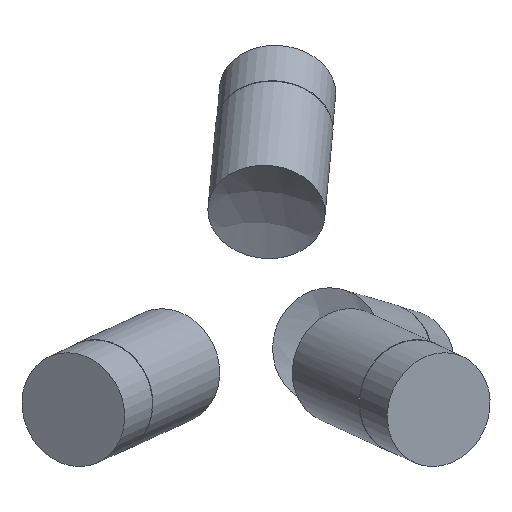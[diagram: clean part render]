
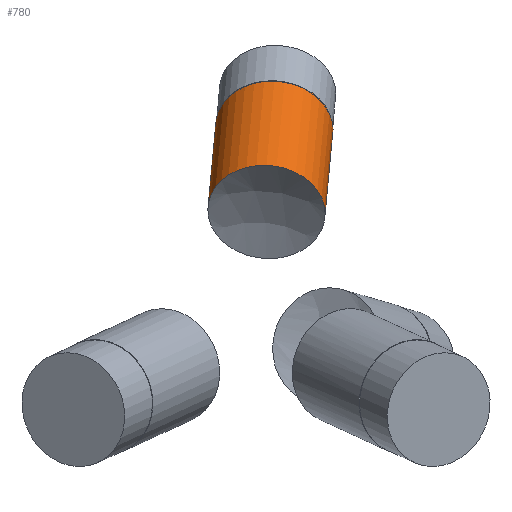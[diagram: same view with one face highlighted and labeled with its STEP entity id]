
A CAD part, top view. The second image highlights one B-rep face of the part: STEP entity #780.
In plain terms, the highlighted cylindrical face has radius 6 mm (diameter 12 mm), a full revolution.
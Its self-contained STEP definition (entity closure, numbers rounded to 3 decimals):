
#33 = SPHERICAL_SURFACE('',#34,20.);
#34 = AXIS2_PLACEMENT_3D('',#35,#36,#37);
#35 = CARTESIAN_POINT('',(0.,0.,0.));
#36 = DIRECTION('',(0.,0.,1.));
#37 = DIRECTION('',(1.,0.,-0.));
#441 = EDGE_CURVE('',#442,#442,#444,.T.);
#442 = VERTEX_POINT('',#443);
#443 = CARTESIAN_POINT('',(1.073,6.865,-18.754)
  );
#444 = SURFACE_CURVE('',#445,(#450,#533),.PCURVE_S1.);
#445 = CIRCLE('',#446,6.);
#446 = AXIS2_PLACEMENT_3D('',#447,#448,#449);
#447 = CARTESIAN_POINT('',(1.073,11.619,
    -15.094));
#448 = DIRECTION('',(0.056,0.609,-0.791)
  );
#449 = DIRECTION('',(0.,0.792,0.61));
#450 = PCURVE('',#33,#451);
#451 = DEFINITIONAL_REPRESENTATION('',(#452),#532);
#452 = B_SPLINE_CURVE_WITH_KNOTS('',8,(#453,#454,#455,#456,#457,#458,
    #459,#460,#461,#462,#463,#464,#465,#466,#467,#468,#469,#470,#471,
    #472,#473,#474,#475,#476,#477,#478,#479,#480,#481,#482,#483,#484,
    #485,#486,#487,#488,#489,#490,#491,#492,#493,#494,#495,#496,#497,
    #498,#499,#500,#501,#502,#503,#504,#505,#506,#507,#508,#509,#510,
    #511,#512,#513,#514,#515,#516,#517,#518,#519,#520,#521,#522,#523,
    #524,#525,#526,#527,#528,#529,#530,#531),.UNSPECIFIED.,.F.,.F.,(9,7,
    7,7,7,7,7,7,7,7,7,9),(3.142,3.534,3.902,
    4.593,5.197,6.254,7.047,
    7.641,8.087,8.756,9.09,
    9.425),.UNSPECIFIED.);
#453 = CARTESIAN_POINT('',(1.416,-1.216));
#454 = CARTESIAN_POINT('',(1.458,-1.218));
#455 = CARTESIAN_POINT('',(1.501,-1.218));
#456 = CARTESIAN_POINT('',(1.544,-1.217));
#457 = CARTESIAN_POINT('',(1.586,-1.215));
#458 = CARTESIAN_POINT('',(1.627,-1.211));
#459 = CARTESIAN_POINT('',(1.666,-1.206));
#460 = CARTESIAN_POINT('',(1.702,-1.199));
#461 = CARTESIAN_POINT('',(1.768,-1.184));
#462 = CARTESIAN_POINT('',(1.798,-1.176));
#463 = CARTESIAN_POINT('',(1.825,-1.167));
#464 = CARTESIAN_POINT('',(1.849,-1.157));
#465 = CARTESIAN_POINT('',(1.871,-1.147));
#466 = CARTESIAN_POINT('',(1.891,-1.136));
#467 = CARTESIAN_POINT('',(1.908,-1.124));
#468 = CARTESIAN_POINT('',(1.951,-1.089));
#469 = CARTESIAN_POINT('',(1.972,-1.065));
#470 = CARTESIAN_POINT('',(1.985,-1.04));
#471 = CARTESIAN_POINT('',(1.993,-1.014));
#472 = CARTESIAN_POINT('',(1.995,-0.988));
#473 = CARTESIAN_POINT('',(1.994,-0.962));
#474 = CARTESIAN_POINT('',(1.988,-0.936));
#475 = CARTESIAN_POINT('',(1.972,-0.888));
#476 = CARTESIAN_POINT('',(1.962,-0.867));
#477 = CARTESIAN_POINT('',(1.95,-0.845));
#478 = CARTESIAN_POINT('',(1.936,-0.824));
#479 = CARTESIAN_POINT('',(1.92,-0.804));
#480 = CARTESIAN_POINT('',(1.902,-0.785));
#481 = CARTESIAN_POINT('',(1.884,-0.767));
#482 = CARTESIAN_POINT('',(1.829,-0.719));
#483 = CARTESIAN_POINT('',(1.79,-0.692));
#484 = CARTESIAN_POINT('',(1.749,-0.668));
#485 = CARTESIAN_POINT('',(1.705,-0.648));
#486 = CARTESIAN_POINT('',(1.659,-0.632));
#487 = CARTESIAN_POINT('',(1.612,-0.62));
#488 = CARTESIAN_POINT('',(1.564,-0.612));
#489 = CARTESIAN_POINT('',(1.48,-0.607));
#490 = CARTESIAN_POINT('',(1.444,-0.607));
#491 = CARTESIAN_POINT('',(1.407,-0.61));
#492 = CARTESIAN_POINT('',(1.371,-0.615));
#493 = CARTESIAN_POINT('',(1.336,-0.623));
#494 = CARTESIAN_POINT('',(1.301,-0.633));
#495 = CARTESIAN_POINT('',(1.267,-0.646));
#496 = CARTESIAN_POINT('',(1.21,-0.671));
#497 = CARTESIAN_POINT('',(1.186,-0.683));
#498 = CARTESIAN_POINT('',(1.163,-0.697));
#499 = CARTESIAN_POINT('',(1.14,-0.711));
#500 = CARTESIAN_POINT('',(1.119,-0.727));
#501 = CARTESIAN_POINT('',(1.099,-0.744));
#502 = CARTESIAN_POINT('',(1.08,-0.761));
#503 = CARTESIAN_POINT('',(1.049,-0.793));
#504 = CARTESIAN_POINT('',(1.036,-0.808));
#505 = CARTESIAN_POINT('',(1.025,-0.822));
#506 = CARTESIAN_POINT('',(1.014,-0.837));
#507 = CARTESIAN_POINT('',(1.004,-0.853));
#508 = CARTESIAN_POINT('',(0.995,-0.869));
#509 = CARTESIAN_POINT('',(0.988,-0.885));
#510 = CARTESIAN_POINT('',(0.972,-0.925));
#511 = CARTESIAN_POINT('',(0.966,-0.95));
#512 = CARTESIAN_POINT('',(0.962,-0.975));
#513 = CARTESIAN_POINT('',(0.963,-1.001));
#514 = CARTESIAN_POINT('',(0.968,-1.026));
#515 = CARTESIAN_POINT('',(0.978,-1.051));
#516 = CARTESIAN_POINT('',(0.995,-1.075));
#517 = CARTESIAN_POINT('',(1.03,-1.109));
#518 = CARTESIAN_POINT('',(1.043,-1.12));
#519 = CARTESIAN_POINT('',(1.058,-1.13));
#520 = CARTESIAN_POINT('',(1.075,-1.141));
#521 = CARTESIAN_POINT('',(1.094,-1.151));
#522 = CARTESIAN_POINT('',(1.116,-1.16));
#523 = CARTESIAN_POINT('',(1.139,-1.168));
#524 = CARTESIAN_POINT('',(1.19,-1.184));
#525 = CARTESIAN_POINT('',(1.217,-1.191));
#526 = CARTESIAN_POINT('',(1.246,-1.198));
#527 = CARTESIAN_POINT('',(1.278,-1.203));
#528 = CARTESIAN_POINT('',(1.31,-1.208));
#529 = CARTESIAN_POINT('',(1.345,-1.212));
#530 = CARTESIAN_POINT('',(1.38,-1.214));
#531 = CARTESIAN_POINT('',(1.416,-1.216));
#532 = ( GEOMETRIC_REPRESENTATION_CONTEXT(2) 
PARAMETRIC_REPRESENTATION_CONTEXT() REPRESENTATION_CONTEXT('2D SPACE',''
  ) );
#533 = PCURVE('',#534,#539);
#534 = CYLINDRICAL_SURFACE('',#535,6.);
#535 = AXIS2_PLACEMENT_3D('',#536,#537,#538);
#536 = CARTESIAN_POINT('',(0.,0.,0.));
#537 = DIRECTION('',(0.056,0.609,-0.791)
  );
#538 = DIRECTION('',(0.,-0.792,-0.61
    ));
#539 = DEFINITIONAL_REPRESENTATION('',(#540),#544);
#540 = LINE('',#541,#542);
#541 = CARTESIAN_POINT('',(-3.142,19.079));
#542 = VECTOR('',#543,1.);
#543 = DIRECTION('',(1.,0.));
#544 = ( GEOMETRIC_REPRESENTATION_CONTEXT(2) 
PARAMETRIC_REPRESENTATION_CONTEXT() REPRESENTATION_CONTEXT('2D SPACE',''
  ) );
#780 = ADVANCED_FACE('',(#781),#534,.T.);
#781 = FACE_BOUND('',#782,.T.);
#782 = EDGE_LOOP('',(#783,#806,#833,#834));
#783 = ORIENTED_EDGE('',*,*,#784,.T.);
#784 = EDGE_CURVE('',#442,#785,#787,.T.);
#785 = VERTEX_POINT('',#786);
#786 = CARTESIAN_POINT('',(1.871,15.51,
    -29.984));
#787 = SEAM_CURVE('',#788,(#792,#799),.PCURVE_S1.);
#788 = LINE('',#789,#790);
#789 = CARTESIAN_POINT('',(0.,-4.754,
    -3.66));
#790 = VECTOR('',#791,1.);
#791 = DIRECTION('',(0.056,0.609,-0.791)
  );
#792 = PCURVE('',#534,#793);
#793 = DEFINITIONAL_REPRESENTATION('',(#794),#798);
#794 = LINE('',#795,#796);
#795 = CARTESIAN_POINT('',(6.283,-0.));
#796 = VECTOR('',#797,1.);
#797 = DIRECTION('',(0.,1.));
#798 = ( GEOMETRIC_REPRESENTATION_CONTEXT(2) 
PARAMETRIC_REPRESENTATION_CONTEXT() REPRESENTATION_CONTEXT('2D SPACE',''
  ) );
#799 = PCURVE('',#534,#800);
#800 = DEFINITIONAL_REPRESENTATION('',(#801),#805);
#801 = LINE('',#802,#803);
#802 = CARTESIAN_POINT('',(0.,-0.));
#803 = VECTOR('',#804,1.);
#804 = DIRECTION('',(0.,1.));
#805 = ( GEOMETRIC_REPRESENTATION_CONTEXT(2) 
PARAMETRIC_REPRESENTATION_CONTEXT() REPRESENTATION_CONTEXT('2D SPACE',''
  ) );
#806 = ORIENTED_EDGE('',*,*,#807,.F.);
#807 = EDGE_CURVE('',#785,#785,#808,.T.);
#808 = SURFACE_CURVE('',#809,(#814,#821),.PCURVE_S1.);
#809 = CIRCLE('',#810,6.);
#810 = AXIS2_PLACEMENT_3D('',#811,#812,#813);
#811 = CARTESIAN_POINT('',(1.871,20.264,
    -26.325));
#812 = DIRECTION('',(0.056,0.609,-0.791)
  );
#813 = DIRECTION('',(0.,-0.792,-0.61
    ));
#814 = PCURVE('',#534,#815);
#815 = DEFINITIONAL_REPRESENTATION('',(#816),#820);
#816 = LINE('',#817,#818);
#817 = CARTESIAN_POINT('',(0.,33.273));
#818 = VECTOR('',#819,1.);
#819 = DIRECTION('',(1.,0.));
#820 = ( GEOMETRIC_REPRESENTATION_CONTEXT(2) 
PARAMETRIC_REPRESENTATION_CONTEXT() REPRESENTATION_CONTEXT('2D SPACE',''
  ) );
#821 = PCURVE('',#822,#827);
#822 = PLANE('',#823);
#823 = AXIS2_PLACEMENT_3D('',#824,#825,#826);
#824 = CARTESIAN_POINT('',(1.871,20.264,
    -26.325));
#825 = DIRECTION('',(0.056,0.609,-0.791)
  );
#826 = DIRECTION('',(0.,-0.792,-0.61
    ));
#827 = DEFINITIONAL_REPRESENTATION('',(#828),#832);
#828 = CIRCLE('',#829,6.);
#829 = AXIS2_PLACEMENT_2D('',#830,#831);
#830 = CARTESIAN_POINT('',(0.,0.));
#831 = DIRECTION('',(1.,0.));
#832 = ( GEOMETRIC_REPRESENTATION_CONTEXT(2) 
PARAMETRIC_REPRESENTATION_CONTEXT() REPRESENTATION_CONTEXT('2D SPACE',''
  ) );
#833 = ORIENTED_EDGE('',*,*,#784,.F.);
#834 = ORIENTED_EDGE('',*,*,#441,.T.);
